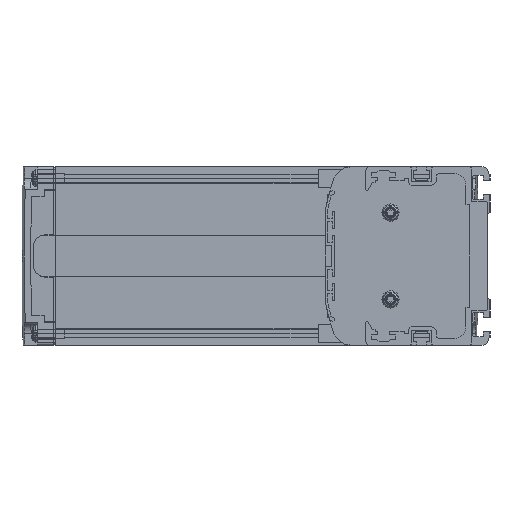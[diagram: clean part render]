
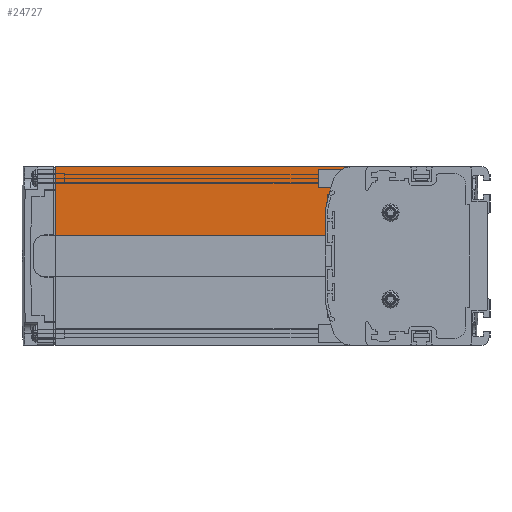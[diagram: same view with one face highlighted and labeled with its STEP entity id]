
A CAD part, left-side view. The second image highlights one B-rep face of the part: STEP entity #24727.
In plain terms, the highlighted planar face has unit normal (-1, 0, 0).
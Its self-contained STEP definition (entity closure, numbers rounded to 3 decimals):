
#1341=DIRECTION('',(0.,-1.,0.));
#1342=VECTOR('',#1341,0.571);
#1343=CARTESIAN_POINT('',(3.,71.,27.));
#1344=LINE('',#1343,#1342);
#1353=DIRECTION('',(0.,0.,1.));
#1354=VECTOR('',#1353,2.224);
#1355=CARTESIAN_POINT('',(3.,71.,24.776));
#1356=LINE('',#1355,#1354);
#1373=DIRECTION('',(0.,0.,-1.));
#1374=VECTOR('',#1373,29.9);
#1375=CARTESIAN_POINT('',(3.,190.,39.));
#1376=LINE('',#1375,#1374);
#6053=DIRECTION('',(0.,-1.,0.));
#6054=VECTOR('',#6053,129.245);
#6055=CARTESIAN_POINT('',(3.,190.,39.));
#6056=LINE('',#6055,#6054);
#7327=DIRECTION('',(0.,0.,-1.));
#7328=VECTOR('',#7327,10.723);
#7329=CARTESIAN_POINT('',(3.,72.,19.823));
#7330=LINE('',#7329,#7328);
#7343=CARTESIAN_POINT('',(3.,70.,19.823));
#7344=DIRECTION('',(1.,0.,0.));
#7345=DIRECTION('',(0.,1.,0.));
#7346=AXIS2_PLACEMENT_3D('',#7343,#7344,#7345);
#7352=CARTESIAN_POINT('',(3.,-6.765,6.));
#7353=DIRECTION('',(1.,0.,0.));
#7354=DIRECTION('',(0.,0.984,0.177));
#7355=AXIS2_PLACEMENT_3D('',#7352,#7353,#7354);
#7357=CARTESIAN_POINT('',(3.,-6.765,6.));
#7358=DIRECTION('',(1.,0.,0.));
#7359=DIRECTION('',(0.,0.965,0.263));
#7360=AXIS2_PLACEMENT_3D('',#7357,#7358,#7359);
#7366=CARTESIAN_POINT('',(3.,60.755,31.));
#7367=DIRECTION('',(-1.,0.,0.));
#7368=DIRECTION('',(0.,0.,1.));
#7369=AXIS2_PLACEMENT_3D('',#7366,#7367,#7368);
#7415=DIRECTION('',(0.,-1.,0.));
#7416=VECTOR('',#7415,118.);
#7417=CARTESIAN_POINT('',(3.,190.,9.1));
#7418=LINE('',#7417,#7416);
#18330=CARTESIAN_POINT('',(3.,190.,39.));
#18331=VERTEX_POINT('',#18330);
#18332=CARTESIAN_POINT('',(3.,190.,9.1));
#18333=VERTEX_POINT('',#18332);
#18362=CARTESIAN_POINT('',(3.,71.,27.));
#18364=VERTEX_POINT('',#18362);
#22546=CARTESIAN_POINT('',(3.,70.429,27.));
#22548=VERTEX_POINT('',#22546);
#22555=CARTESIAN_POINT('',(3.,71.,24.776));
#22557=VERTEX_POINT('',#22555);
#22565=CARTESIAN_POINT('',(3.,72.,9.1));
#22566=VERTEX_POINT('',#22565);
#22575=CARTESIAN_POINT('',(3.,72.,19.823));
#22576=CARTESIAN_POINT('',(3.,71.968,20.177));
#22577=VERTEX_POINT('',#22575);
#22578=VERTEX_POINT('',#22576);
#22579=CARTESIAN_POINT('',(3.,68.257,33.778));
#22580=VERTEX_POINT('',#22579);
#22581=CARTESIAN_POINT('',(3.,60.755,39.));
#22582=VERTEX_POINT('',#22581);
#24703=CARTESIAN_POINT('',(3.,105.,24.05));
#24704=DIRECTION('',(1.,0.,0.));
#24705=DIRECTION('',(0.,0.,1.));
#24706=AXIS2_PLACEMENT_3D('',#24703,#24704,#24705);
#24707=PLANE('',#24706);
#24709=ORIENTED_EDGE('',*,*,#24708,.F.);
#24711=ORIENTED_EDGE('',*,*,#24710,.T.);
#24713=ORIENTED_EDGE('',*,*,#24712,.F.);
#24714=ORIENTED_EDGE('',*,*,#23030,.F.);
#24716=ORIENTED_EDGE('',*,*,#24715,.T.);
#24718=ORIENTED_EDGE('',*,*,#24717,.T.);
#24720=ORIENTED_EDGE('',*,*,#24719,.F.);
#24721=ORIENTED_EDGE('',*,*,#24652,.F.);
#24722=ORIENTED_EDGE('',*,*,#24670,.F.);
#24724=ORIENTED_EDGE('',*,*,#24723,.F.);
#24725=EDGE_LOOP('',(#24709,#24711,#24713,#24714,#24716,#24718,#24720,#24721,
#24722,#24724));
#24726=FACE_OUTER_BOUND('',#24725,.F.);
#24727=ADVANCED_FACE('',(#24726),#24707,.F.);
#7347=CIRCLE('',#7346,2.);
#7356=CIRCLE('',#7355,80.);
#7361=CIRCLE('',#7360,80.);
#7370=CIRCLE('',#7369,8.);
#23030=EDGE_CURVE('',#18331,#18333,#1376,.T.);
#24652=EDGE_CURVE('',#18364,#22548,#1344,.T.);
#24670=EDGE_CURVE('',#22557,#18364,#1356,.T.);
#24708=EDGE_CURVE('',#22577,#22578,#7347,.T.);
#24710=EDGE_CURVE('',#22577,#22566,#7330,.T.);
#24712=EDGE_CURVE('',#18333,#22566,#7418,.T.);
#24715=EDGE_CURVE('',#18331,#22582,#6056,.T.);
#24717=EDGE_CURVE('',#22582,#22580,#7370,.T.);
#24719=EDGE_CURVE('',#22548,#22580,#7361,.T.);
#24723=EDGE_CURVE('',#22578,#22557,#7356,.T.);
